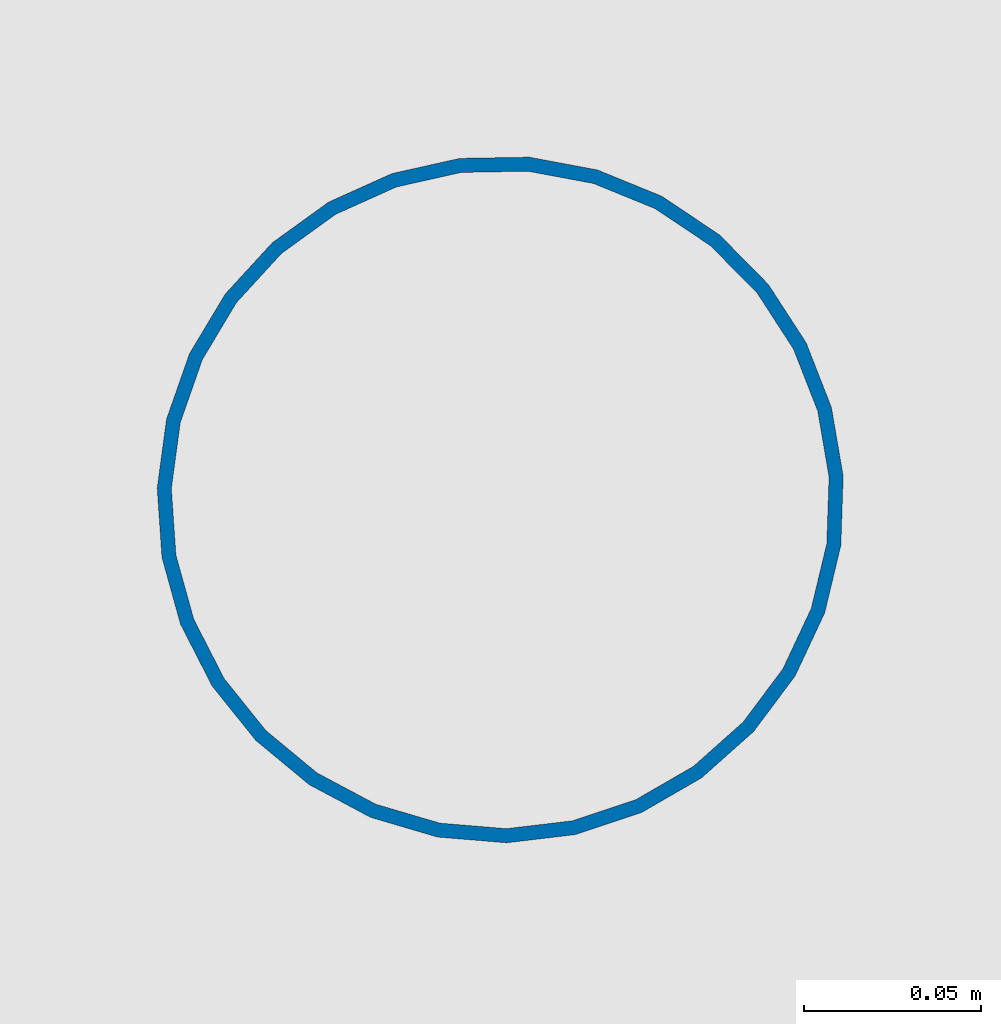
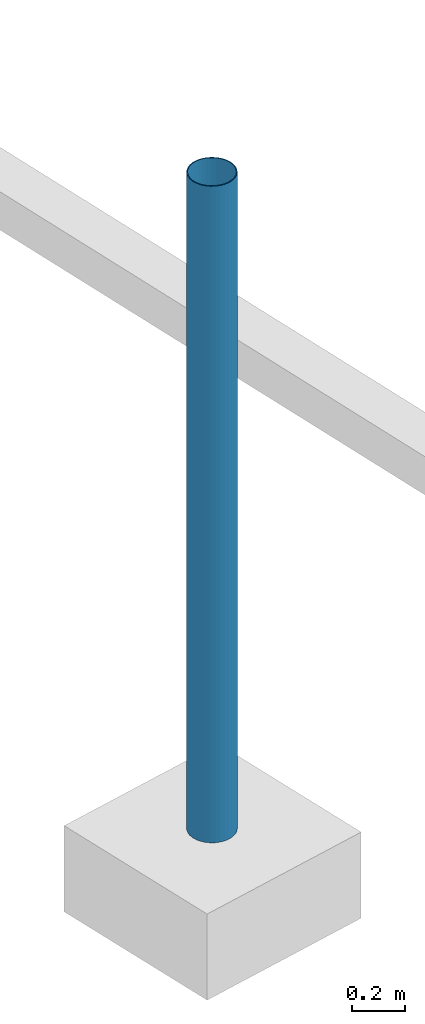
# One storey, part 3 of 17: 1 column.
"""IFC2X3 building model written with IfcOpenShell, lengths in centimetres."""

from ifc_helpers import new_model, entity, si_unit, converted_unit, derived_unit, direction, frame, frame_2d, origin, place, context, subcontext, project, spatial, hollow_circle, extrude, source, transform, mapped, material, type_object, type_shapes, element, save


model = new_model("IFC2X3")

# Units and contexts
model_context = context("Model", 3, precision=0.001, world=origin(), true_north=direction((6.12303176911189e-17, 1.0)))
body_context = subcontext(model_context, "Body", "Model", "MODEL_VIEW")
ifc_project = project(units=[si_unit("LENGTHUNIT", "METRE", prefix="CENTI"), si_unit("AREAUNIT", "SQUARE_METRE"), si_unit("VOLUMEUNIT", "CUBIC_METRE"), converted_unit("PLANEANGLEUNIT", "DEGREE", entity("IfcRatioMeasure", 0.0174532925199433), si_unit("PLANEANGLEUNIT", "RADIAN"), dimensions=[0, 0, 0, 0, 0, 0, 0]), si_unit("MASSUNIT", "GRAM", prefix="KILO"), derived_unit("MASSDENSITYUNIT", [(si_unit("MASSUNIT", "GRAM", prefix="KILO"), 1), (si_unit("LENGTHUNIT", "METRE"), -3)]), si_unit("TIMEUNIT", "SECOND"), si_unit("FREQUENCYUNIT", "HERTZ"), si_unit("THERMODYNAMICTEMPERATUREUNIT", "DEGREE_CELSIUS"), derived_unit("THERMALTRANSMITTANCEUNIT", [(si_unit("MASSUNIT", "GRAM", prefix="KILO"), 1), (si_unit("THERMODYNAMICTEMPERATUREUNIT", "KELVIN"), -1), (si_unit("TIMEUNIT", "SECOND"), -3)]), derived_unit("VOLUMETRICFLOWRATEUNIT", [(si_unit("LENGTHUNIT", "METRE"), 3), (si_unit("TIMEUNIT", "SECOND"), -1)]), si_unit("ELECTRICCURRENTUNIT", "AMPERE"), si_unit("ELECTRICVOLTAGEUNIT", "VOLT"), si_unit("POWERUNIT", "WATT"), si_unit("FORCEUNIT", "NEWTON", prefix="KILO"), si_unit("ILLUMINANCEUNIT", "LUX"), si_unit("LUMINOUSFLUXUNIT", "LUMEN"), si_unit("LUMINOUSINTENSITYUNIT", "CANDELA"), derived_unit("USERDEFINED", [(si_unit("MASSUNIT", "GRAM", prefix="KILO"), -1), (si_unit("LENGTHUNIT", "METRE"), -2), (si_unit("TIMEUNIT", "SECOND"), 3), (si_unit("LUMINOUSFLUXUNIT", "LUMEN"), 1)]), derived_unit("LINEARVELOCITYUNIT", [(si_unit("LENGTHUNIT", "METRE"), 1), (si_unit("TIMEUNIT", "SECOND"), -1)]), si_unit("PRESSUREUNIT", "PASCAL"), derived_unit("USERDEFINED", [(si_unit("LENGTHUNIT", "METRE"), -2), (si_unit("MASSUNIT", "GRAM", prefix="KILO"), 1), (si_unit("TIMEUNIT", "SECOND"), -2)])], contexts=[model_context])

# Site, building, storey
site_placement = place(None, frame((2611.71187422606, 13650.4058644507, 0.0), z_axis=(0.0, 0.0, 1.0), x_axis=(0.0673222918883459, -0.997731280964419, 0.0)))
site = spatial("IfcSite", under=ifc_project, at=site_placement, Name="Surface", CompositionType="ELEMENT")
building_placement = place(site_placement, origin())
building = spatial("IfcBuilding", under=site, at=building_placement, CompositionType="ELEMENT")
storey_placement = place(building_placement, frame((0.0, 0.0, 86950.0)))
storey = spatial("IfcBuildingStorey", under=building, at=storey_placement, Name="-1 Soubassement", CompositionType="ELEMENT", Elevation=86950.0)

# Column
ifc_material = material(Name="Acier structurel - S235")
column_type = type_object("IfcColumnType", Name="Poteau rond 193.7x4 mm", PredefinedType="COLUMN")
shared_shape = source(origin(), body_context, "Body", "SweptSolid", [
    extrude(hollow_circle(Radius=9.685, WallThickness=0.399999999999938, at=frame_2d((-7.14015928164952e-16, -4.16500599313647e-14), x_axis=(1.0, 0.0))), frame((0.0, 0.0, 86950.0)), (0.0, 0.0, 1.0), 305.124669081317),
])
type_shapes(column_type, [shared_shape])
column_placement = place(storey_placement, frame((4300.46786909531, 1536.73866989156, -86950.0), z_axis=(0.0, 0.0, 1.0), x_axis=(0.988328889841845, 0.152335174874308, 0.0)))
element("IfcColumn", 1, at=column_placement, inside=storey, type_object=column_type, material=ifc_material, Name="Poteau RO (EN 10219-2):Poteau rond 193.7x4 mm", ObjectType="Poteau RO (EN 10219-2):Poteau rond 193.7x4 mm", context=body_context, shape_type="MappedRepresentation", body=[
    mapped(shared_shape, transform((0.0, 0.0, 0.0), scale=1.0)),
])

save(model, "model.ifc")
